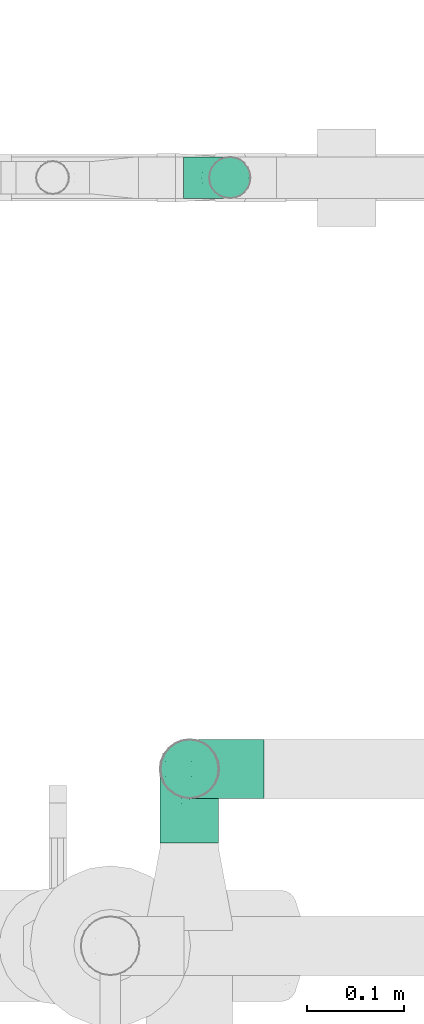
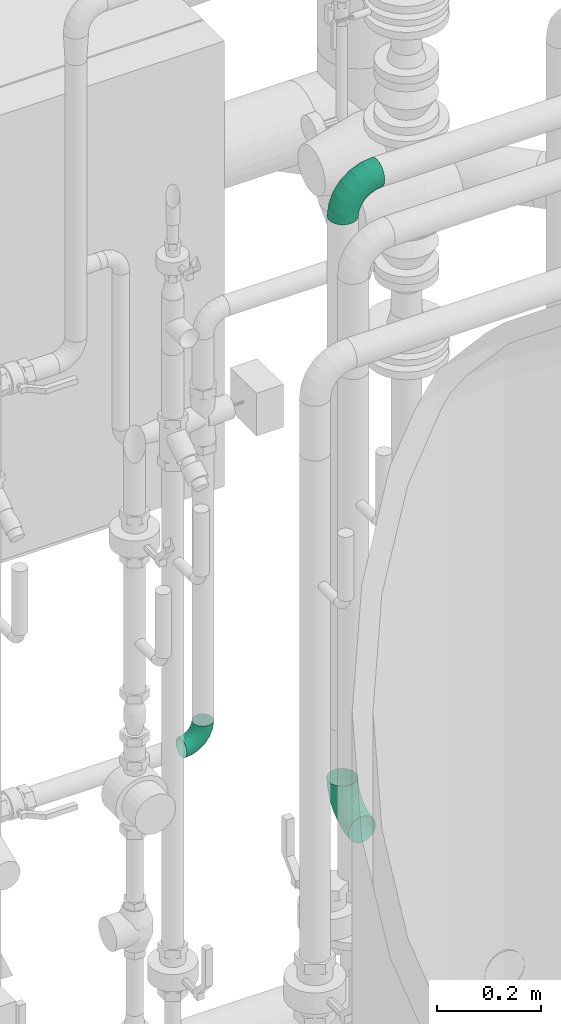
# One storey, part 113 of 374: 3 flow segments.
"""IFC2X3 building model written with IfcOpenShell, lengths in metres."""

import ifcopenshell
import ifcopenshell.guid

model = None  # the IFC model being written
_history = None  # IfcOwnerHistory: only IFC2X3 demands one
_inside = {}  # id of a spatial element -> (the spatial element, [elements in it])
_under = {}  # id of a project, library or spatial element -> (it, [spatial elements below it])
_declared = {}  # id of a project -> (the project, [libraries it declares])
_typed = {}  # id of a type object -> (the type object, [elements of that type])
_made_of = {}  # id of a material, layer set ... -> (it, [elements and type objects made of it])


def new_model(schema):
    """Start an empty IFC model of exactly this schema.

    Asked for "IFC4X3", IfcOpenShell would pick the latest addendum, in which some entities
    have other attributes; the version numbers below select the first issue.
    IFC2X3 requires an IfcOwnerHistory on every rooted entity: one is made here for all.
    """
    global model, _history
    if schema == "IFC4X3":
        model = ifcopenshell.file(schema_version=(4, 3, 0, 0))
    else:
        model = ifcopenshell.file(schema=schema)
    _inside.clear()
    _under.clear()
    _declared.clear()
    _typed.clear()
    _made_of.clear()
    _history = None
    if model.schema == "IFC2X3":
        org = make("IfcOrganization", Name="unknown")
        user = make(
            "IfcPersonAndOrganization",
            ThePerson=make("IfcPerson", FamilyName="unknown"),
            TheOrganization=org,
        )
        app = make(
            "IfcApplication",
            ApplicationDeveloper=org,
            Version="unknown",
            ApplicationFullName="unknown",
            ApplicationIdentifier="unknown",
        )
        _history = make(
            "IfcOwnerHistory",
            OwningUser=user,
            OwningApplication=app,
            ChangeAction="ADDED",
            CreationDate=0,
        )
    return model


def make(cls, **values):
    """One entity of the class cls with the attributes given. An attribute that is None is left unset."""
    return model.create_entity(
        cls, **{name: value for name, value in values.items() if value is not None}
    )


def rooted(cls, **values):
    """An entity with a GlobalId (a new one), such as an element, a storey or a relation."""
    return make(cls, GlobalId=ifcopenshell.guid.new(), OwnerHistory=_history, **values)


def si_unit(unit_type, name, prefix=None):
    """IfcSIUnit, for example si_unit("LENGTHUNIT", "METRE", prefix="MILLI")."""
    return make("IfcSIUnit", UnitType=unit_type, Prefix=prefix, Name=name)


def assignment(units):
    """IfcUnitAssignment: the units of a project."""
    return None if units is None else make("IfcUnitAssignment", Units=units)


def point(xyz):
    """IfcCartesianPoint."""
    return None if xyz is None else make("IfcCartesianPoint", Coordinates=xyz)


def direction(xyz):
    """IfcDirection."""
    return None if xyz is None else make("IfcDirection", DirectionRatios=xyz)


def frame(location, z_axis=None, x_axis=None):
    """IfcAxis2Placement3D, a coordinate frame: its origin and axes. An axis left out is left unset."""
    return make(
        "IfcAxis2Placement3D",
        Location=point(location),
        Axis=direction(z_axis),
        RefDirection=direction(x_axis),
    )


def origin():
    """The frame at (0, 0, 0) with its axes left unset."""
    return frame((0.0, 0.0, 0.0))


def place(relative_to, where):
    """IfcLocalPlacement: puts the frame where relative to a parent placement (None: the world)."""
    return make(
        "IfcLocalPlacement", PlacementRelTo=relative_to, RelativePlacement=where
    )


def context(
    kind, dimensions, precision=None, world=None, true_north=None, identifier=None
):
    """IfcGeometricRepresentationContext, for example the 3D "Model" context."""
    return make(
        "IfcGeometricRepresentationContext",
        ContextIdentifier=identifier,
        ContextType=kind,
        CoordinateSpaceDimension=dimensions,
        Precision=precision,
        WorldCoordinateSystem=world,
        TrueNorth=true_north,
    )


def subcontext(parent, identifier, kind, view, scale=None):
    """IfcGeometricRepresentationSubContext, for example "Body" below "Model"."""
    return make(
        "IfcGeometricRepresentationSubContext",
        ContextIdentifier=identifier,
        ContextType=kind,
        ParentContext=parent,
        TargetScale=scale,
        TargetView=view,
    )


def project(units=None, contexts=None):
    """IfcProject with its units and contexts."""
    return rooted(
        "IfcProject",
        Name="project",
        RepresentationContexts=contexts,
        UnitsInContext=assignment(units),
    )


def spatial(cls, under=None, at=None, **own):
    """A site, building, storey or space (cls), placed at a placement, below another one or the project."""
    s = rooted(cls, ObjectPlacement=at, **own)
    if under is not None:
        _under.setdefault(under.id(), (under, []))[1].append(s)
    return s


def faces_of(points, faces, orient=None, outer=None):
    """IfcFace entities. A face is a list of loops; a loop is a list of indices into points, from 0.

    orient and outer hold one flag for each loop. By default every Orientation is true, the
    first loop of a face is its IfcFaceOuterBound and the others are IfcFaceBound.
    """
    made = []
    for i, loops in enumerate(faces):
        bounds = []
        for j, loop in enumerate(loops):
            is_outer = j == 0 if outer is None else outer[i][j]
            bounds.append(
                make(
                    "IfcFaceOuterBound" if is_outer else "IfcFaceBound",
                    Bound=make("IfcPolyLoop", Polygon=[points[k] for k in loop]),
                    Orientation=True if orient is None else orient[i][j],
                )
            )
        made.append(make("IfcFace", Bounds=bounds))
    return made


def open_shell(faces, orient=None, outer=None):
    """The faces of one IfcOpenShell. surface_model builds it on its shared points."""
    return ("IfcOpenShell", faces, orient, outer)


def surface_model(cls, points, shells):
    """IfcFaceBasedSurfaceModel or IfcShellBasedSurfaceModel (cls): surfaces that need not close."""
    shared = [point(p) for p in points]
    made = [make(c, CfsFaces=faces_of(shared, fs, o, b)) for c, fs, o, b in shells]
    if cls == "IfcFaceBasedSurfaceModel":
        return make(cls, FbsmFaces=made)
    return make(cls, SbsmBoundary=made)


def shape(context_of_items, identifier, shape_type, items):
    """IfcShapeRepresentation: the items that make up one representation, for example the "Body"."""
    return make(
        "IfcShapeRepresentation",
        ContextOfItems=context_of_items,
        RepresentationIdentifier=identifier,
        RepresentationType=shape_type,
        Items=items,
    )


def source(mapping_origin, context_of_items, identifier, shape_type, items):
    """IfcRepresentationMap: a shape defined once, which mapped items show again and again."""
    return make(
        "IfcRepresentationMap",
        MappingOrigin=mapping_origin,
        MappedRepresentation=shape(context_of_items, identifier, shape_type, items),
    )


def transform(
    local_origin,
    x_axis=None,
    y_axis=None,
    z_axis=None,
    scale=None,
    scale2=None,
    scale3=None,
    uniform=True,
):
    """IfcCartesianTransformationOperator3D, or its non-uniform kind. x_axis, y_axis, z_axis: its Axis1, 2, 3."""
    if uniform:
        return make(
            "IfcCartesianTransformationOperator3D",
            Axis1=direction(x_axis),
            Axis2=direction(y_axis),
            LocalOrigin=point(local_origin),
            Scale=scale,
            Axis3=direction(z_axis),
        )
    return make(
        "IfcCartesianTransformationOperator3DnonUniform",
        Axis1=direction(x_axis),
        Axis2=direction(y_axis),
        LocalOrigin=point(local_origin),
        Scale=scale,
        Axis3=direction(z_axis),
        Scale2=scale2,
        Scale3=scale3,
    )


def mapped(mapping_source, mapping_target):
    """IfcMappedItem: shows the shape of a source again, moved by a transform."""
    return make(
        "IfcMappedItem", MappingSource=mapping_source, MappingTarget=mapping_target
    )


def made_of(thing, what):
    """Note that an element or type object is made of a material, layer set ...; save() writes the relation."""
    if what is not None:
        _made_of.setdefault(what.id(), (what, []))[1].append(thing)
    return thing


def element(
    cls,
    number,
    at=None,
    inside=None,
    cuts=None,
    type_object=None,
    material=None,
    context=None,
    identifier="Body",
    shape_type=None,
    held_by="IfcProductDefinitionShape",
    body=None,
    shapes=None,
    **own,
):
    """One element of the class cls, such as IfcWall. Its Tag is "e" and its number.

    at: its placement. inside: the storey or other place that contains it. cuts: it is an
    opening in that element (IfcRelVoidsElement). A single representation is given by context,
    identifier, shape_type and body (its items); several are given by shapes. held_by: the class
    of the entity that holds the representations. save() writes the other relations.
    """
    e = rooted(cls, Tag="e%d" % number, ObjectPlacement=at, **own)
    if body is not None:
        shapes = [shape(context, identifier, shape_type, body)]
    if shapes is not None:
        e.Representation = make(held_by, Representations=shapes)
    if inside is not None:
        _inside.setdefault(inside.id(), (inside, []))[1].append(e)
    if cuts is not None:
        rooted(
            "IfcRelVoidsElement", RelatingBuildingElement=cuts, RelatedOpeningElement=e
        )
    if type_object is not None:
        _typed.setdefault(type_object.id(), (type_object, []))[1].append(e)
    return made_of(e, material)


def aggregate(whole, parts):
    """IfcRelAggregates: a whole, such as a stair, and the parts it consists of."""
    return rooted("IfcRelAggregates", RelatingObject=whole, RelatedObjects=parts)


def save(model, path):
    """Write the relations noted so far, then the file.

    IfcRelAggregates (storeys below a building ...), IfcRelContainedInSpatialStructure (elements
    in a storey), IfcRelDefinesByType, IfcRelAssociatesMaterial and IfcRelDeclares: one each for
    every whole, place, type object, material and project.
    """
    for whole, parts in _under.values():
        aggregate(whole, parts)
    for where, things in _inside.values():
        rooted(
            "IfcRelContainedInSpatialStructure",
            RelatedElements=things,
            RelatingStructure=where,
        )
    for kind, things in _typed.values():
        rooted("IfcRelDefinesByType", RelatedObjects=things, RelatingType=kind)
    for what, things in _made_of.values():
        rooted("IfcRelAssociatesMaterial", RelatedObjects=things, RelatingMaterial=what)
    for by, libraries in _declared.values():
        rooted("IfcRelDeclares", RelatingContext=by, RelatedDefinitions=libraries)
    model.write(path)


model = new_model("IFC2X3")

# Units and contexts
model_context = context("Model", 3, precision=1e-05, world=origin(), true_north=direction((-0.4480736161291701, 0.8939966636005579)))
body_context = subcontext(model_context, "Body", "Model", "MODEL_VIEW")
ifc_project = project(units=[si_unit("LENGTHUNIT", "METRE"), si_unit("AREAUNIT", "SQUARE_METRE"), si_unit("VOLUMEUNIT", "CUBIC_METRE"), si_unit("PLANEANGLEUNIT", "RADIAN"), si_unit("THERMODYNAMICTEMPERATUREUNIT", "KELVIN"), si_unit("MASSUNIT", "GRAM", prefix="KILO"), si_unit("TIMEUNIT", "SECOND")], contexts=[model_context])

# Site, building, storey
site_placement = place(None, origin())
site = spatial("IfcSite", under=ifc_project, at=site_placement, Name="Site 1", CompositionType="ELEMENT")
building_placement = place(site_placement, origin())
building = spatial("IfcBuilding", under=site, at=building_placement, Name="Undefined", CompositionType="ELEMENT")
storey_placement = place(building_placement, origin())
storey = spatial("IfcBuildingStorey", under=building, at=storey_placement, Name="Rez de chauss\x8ee", CompositionType="ELEMENT", Elevation=0.0)

# Flow segments
shared_shape_1 = source(origin(), body_context, "Body", "SurfaceModel", [
    surface_model("IfcFaceBasedSurfaceModel", [(0.01806482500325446, 7.105427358e-15, 0.0), (0.017970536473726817, 0.005533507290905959, 0.0), (9.428852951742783e-05, 0.005533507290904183, 1.776356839e-15), (0.0, 0.0, 0.0), (-0.017172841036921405, 0.00613233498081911, -0.004587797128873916), (-0.01744928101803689, 0.0006051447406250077, -0.004636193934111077), (-0.03265412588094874, 0.007289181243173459, -0.013450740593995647), (-0.0330938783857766, 0.0017741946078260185, -0.013592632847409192), (-0.045294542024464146, 0.008925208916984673, -0.02598483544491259), (-0.045867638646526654, 0.0034274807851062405, -0.02625895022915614), (-0.054232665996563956, 0.010928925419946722, -0.041335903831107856), (-0.05490005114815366, 0.005452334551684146, -0.04177195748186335), (-0.05885937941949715, 0.013163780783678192, -0.05845779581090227), (-0.059575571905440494, 0.007710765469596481, -0.05907446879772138), (0.01769409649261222, 0.010875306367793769, -0.0014203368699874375), (0.00037072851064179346, 0.010875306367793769, -0.0014203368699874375), (-0.016362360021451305, 0.011455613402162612, -0.005866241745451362), (-0.03136483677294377, 0.012576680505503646, -0.014455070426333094), (-0.04361430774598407, 0.014162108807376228, -0.026601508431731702), (-0.05227599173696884, 0.016103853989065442, -0.0414777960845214), (-0.05675960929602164, 0.018269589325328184, -0.05807013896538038), (0.017254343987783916, 0.015661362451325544, -0.0041642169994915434), (0.0008104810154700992, 0.015661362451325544, -0.004164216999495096), (-0.01507307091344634, 0.016212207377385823, -0.008384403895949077), (-0.029313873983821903, 0.01727635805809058, -0.016537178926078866), (-0.04094144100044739, 0.01878129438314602, -0.02806694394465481), (-0.049163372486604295, 0.02062445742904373, -0.042187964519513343), (-0.05341935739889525, 0.02268023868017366, -0.05793791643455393), (0.016681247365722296, 0.01956551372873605, -0.008044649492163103), (0.001383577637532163, 0.01956551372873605, -0.008044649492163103), (-0.01339283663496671, 0.020077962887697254, -0.011970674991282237), (-0.026641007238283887, 0.021067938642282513, -0.01955517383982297), (-0.03745809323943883, 0.02246797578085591, -0.03028127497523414), (-0.04510692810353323, 0.0241826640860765, -0.04341801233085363), (-0.04906625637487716, 0.026095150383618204, -0.05807013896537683), (0.016013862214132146, 0.022321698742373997, -0.012797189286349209), (0.0020509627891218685, 0.022321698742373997, -0.012797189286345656), (-0.011436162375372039, 0.02278943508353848, -0.016380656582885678), (-0.023528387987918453, 0.02369303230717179, -0.023303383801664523), (-0.03340164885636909, 0.024970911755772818, -0.03309359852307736), (-0.040383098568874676, 0.026535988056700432, -0.04508411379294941), (-0.04399696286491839, 0.028281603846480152, -0.05845779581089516), (0.015297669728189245, 0.023742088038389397, -0.018097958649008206), (0.00276715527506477, 0.023742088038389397, -0.018097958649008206), (-0.009336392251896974, 0.024161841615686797, -0.021313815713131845), (-0.02018813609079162, 0.02497274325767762, -0.0275263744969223), (-0.029048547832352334, 0.02611953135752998, -0.03631225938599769), (-0.03531380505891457, 0.027524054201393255, -0.04707272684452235), (-0.0385569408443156, 0.02909059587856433, -0.05907446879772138), (0.014581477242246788, 0.023729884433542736, -0.02358571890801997), (0.0034833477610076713, 0.023729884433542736, -0.02358571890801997), (-0.007236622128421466, 0.024101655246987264, -0.026433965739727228), (-0.016847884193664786, 0.02481986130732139, -0.03193635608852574), (-0.02469544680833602, 0.02583555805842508, -0.03971791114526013), (-0.0302445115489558, 0.027079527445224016, -0.04924833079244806), (-0.03311691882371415, 0.02846699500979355, -0.059878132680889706), (0.013914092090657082, 0.02228591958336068, -0.02888648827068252), (0.004150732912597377, 0.022285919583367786, -0.028886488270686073), (-0.005279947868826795, 0.022612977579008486, -0.031392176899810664), (-0.013735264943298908, 0.023244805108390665, -0.03623279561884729), (-0.020639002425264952, 0.02413834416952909, -0.04307846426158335), (-0.025520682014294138, 0.025232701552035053, -0.051462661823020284), (-0.028047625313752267, 0.026453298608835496, -0.060814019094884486), (0.013340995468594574, 0.01950859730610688, -0.03363902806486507), (0.0047238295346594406, 0.01950859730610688, -0.033639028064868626), (-0.0035997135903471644, 0.019797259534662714, -0.035850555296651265), (-0.011062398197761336, 0.0203549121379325, -0.04012289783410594), (-0.017155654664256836, 0.021143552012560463, -0.04616490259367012), (-0.02146423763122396, 0.022109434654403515, -0.05356481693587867), (-0.02369452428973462, 0.023186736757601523, -0.06181834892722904), (0.012901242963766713, 0.015587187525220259, -0.037519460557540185), (0.005163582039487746, 0.015587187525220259, -0.03751946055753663), (-0.0023104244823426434, 0.015846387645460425, -0.03950526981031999), (-0.009011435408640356, 0.016347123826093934, -0.043341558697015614), (-0.01448278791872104, 0.017055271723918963, -0.048766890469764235), (-0.018351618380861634, 0.017922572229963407, -0.05541153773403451), (-0.02035427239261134, 0.018889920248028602, -0.06282267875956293), (0.012624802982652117, 0.010788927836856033, -0.040263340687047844), (0.005440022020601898, 0.010788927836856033, -0.0402633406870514), (-0.0014999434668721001, 0.011029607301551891, -0.04210725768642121), (-0.007722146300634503, 0.01149456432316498, -0.045669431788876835), (-0.012802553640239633, 0.012152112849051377, -0.05070710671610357), (-0.0163949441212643, 0.012957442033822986, -0.056876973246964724), (-0.018254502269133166, 0.013855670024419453, -0.06375856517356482), (0.012530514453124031, 0.005440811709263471, -0.041683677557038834), (0.005534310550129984, 0.0054408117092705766, -0.041683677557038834), (-0.0012235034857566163, 0.005675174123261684, -0.04347919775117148), (-0.007282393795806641, 0.006127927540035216, -0.046947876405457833), (-0.012229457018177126, 0.0067682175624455, -0.05185332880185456), (-0.015727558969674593, 0.007552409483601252, -0.05786125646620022), (-0.01753830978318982, 0.008427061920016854, -0.0645622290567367), (0.012624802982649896, -9.26955816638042e-05, -0.04168367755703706), (0.005440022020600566, -9.269558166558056e-05, -0.04168367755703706), (-0.0014999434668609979, 0.00014798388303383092, -0.0435275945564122), (-0.007722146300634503, 0.0006129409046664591, -0.047089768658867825), (-0.012802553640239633, 0.001270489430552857, -0.05212744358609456), (-0.0163949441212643, 0.002075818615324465, -0.058297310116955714), (-0.018254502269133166, 0.0029740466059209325, -0.06517890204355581), (0.012901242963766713, -0.005434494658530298, -0.0402633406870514), (0.005163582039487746, -0.005434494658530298, -0.040263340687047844), (-0.0023104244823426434, -0.005175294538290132, -0.0422491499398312), (-0.009011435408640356, -0.004674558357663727, -0.046085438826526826), (-0.01448278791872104, -0.0039664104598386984, -0.051510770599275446), (-0.018351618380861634, -0.0030991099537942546, -0.05815541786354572), (-0.02035427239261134, -0.0021317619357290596, -0.06556655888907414), (0.013340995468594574, -0.010220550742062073, -0.03751946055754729), (0.0047238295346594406, -0.010220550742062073, -0.03751946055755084), (-0.0035997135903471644, -0.009931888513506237, -0.03973098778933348), (-0.011062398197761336, -0.009374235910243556, -0.04400333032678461), (-0.017155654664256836, -0.00858559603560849, -0.05004533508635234), (-0.02146423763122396, -0.007619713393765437, -0.057445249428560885), (-0.02369452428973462, -0.006542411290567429, -0.06569878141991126), (0.013914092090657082, -0.01412470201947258, -0.03363902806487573), (0.004150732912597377, -0.014124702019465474, -0.033639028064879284), (-0.005279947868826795, -0.013797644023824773, -0.036144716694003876), (-0.013735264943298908, -0.013165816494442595, -0.0409853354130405), (-0.020639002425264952, -0.012272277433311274, -0.04783100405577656), (-0.025520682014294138, -0.011177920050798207, -0.05621520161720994), (-0.028047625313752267, -0.009957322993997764, -0.0655665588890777), (0.014581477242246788, -0.01688088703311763, -0.028886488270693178), (0.0034833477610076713, -0.01688088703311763, -0.028886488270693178), (-0.007236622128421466, -0.016509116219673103, -0.031734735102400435), (-0.016847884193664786, -0.015790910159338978, -0.03723712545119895), (-0.02469544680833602, -0.014775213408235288, -0.04501868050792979), (-0.0302445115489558, -0.01353124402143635, -0.054549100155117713), (-0.03311691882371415, -0.012143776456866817, -0.06517890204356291), (0.015297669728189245, -0.01830127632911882, -0.02358571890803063), (0.00276715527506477, -0.01830127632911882, -0.02358571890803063), (-0.009336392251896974, -0.01788152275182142, -0.026801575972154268), (-0.02018813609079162, -0.017070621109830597, -0.033014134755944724), (-0.029048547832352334, -0.01592383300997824, -0.04180001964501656), (-0.03531380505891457, -0.014519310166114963, -0.05256048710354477), (-0.0385569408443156, -0.012952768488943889, -0.06456222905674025), (0.016013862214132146, -0.01828907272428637, -0.018097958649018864), (0.0020509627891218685, -0.01828907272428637, -0.018097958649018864), (-0.011436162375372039, -0.01782133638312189, -0.021681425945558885), (-0.023528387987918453, -0.016917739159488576, -0.02860415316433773), (-0.03340164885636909, -0.01563985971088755, -0.038394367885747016), (-0.040383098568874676, -0.014074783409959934, -0.05038488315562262), (-0.04399696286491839, -0.012329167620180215, -0.06375856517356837), (0.016681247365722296, -0.01684510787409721, -0.012797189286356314), (0.001383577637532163, -0.01684510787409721, -0.012797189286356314), (-0.01339283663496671, -0.016332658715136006, -0.01672321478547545), (-0.026641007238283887, -0.015342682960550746, -0.02430771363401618), (-0.03745809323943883, -0.01394264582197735, -0.03503381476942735), (-0.04510692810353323, -0.01222795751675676, -0.04817055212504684), (-0.04906625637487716, -0.010315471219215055, -0.06282267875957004), (0.017254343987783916, -0.014067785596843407, -0.008044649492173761), (0.0008104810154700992, -0.014067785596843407, -0.008044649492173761), (-0.01507307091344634, -0.013516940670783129, -0.012264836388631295), (-0.029313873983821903, -0.012452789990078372, -0.020417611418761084), (-0.04094144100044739, -0.010947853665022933, -0.03194737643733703), (-0.049163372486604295, -0.009104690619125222, -0.04606839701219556), (-0.05341935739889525, -0.007048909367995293, -0.06181834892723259), (0.01769409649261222, -0.010146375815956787, -0.004164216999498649), (0.00037072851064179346, -0.010146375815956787, -0.004164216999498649), (-0.016362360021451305, -0.009566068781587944, -0.008610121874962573), (-0.03136483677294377, -0.008445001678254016, -0.017198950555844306), (-0.04361430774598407, -0.006859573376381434, -0.029345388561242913), (-0.05227599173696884, -0.00491782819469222, -0.04422167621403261), (-0.05675960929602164, -0.002752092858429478, -0.060814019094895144), (0.017970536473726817, -0.0053481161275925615, -0.0014203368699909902), (9.428852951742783e-05, -0.0053481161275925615, -0.0014203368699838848), (-0.017172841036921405, -0.004749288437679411, -0.006008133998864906), (-0.03265412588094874, -0.0035924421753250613, -0.014871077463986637), (-0.045294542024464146, -0.001956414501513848, -0.02740517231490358), (-0.05423266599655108, 4.730200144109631e-05, -0.042756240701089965), (-0.05885937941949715, 0.002282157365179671, -0.05987813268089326)], [open_shell([[[0, 1, 2, 3]], [[3, 2, 4, 5]], [[5, 4, 6, 7]], [[7, 6, 8, 9]], [[9, 8, 10, 11]], [[11, 10, 12, 13]], [[1, 14, 15, 2]], [[2, 15, 16, 4]], [[4, 16, 17, 6]], [[6, 17, 18, 8]], [[8, 18, 19, 10]], [[10, 19, 20, 12]], [[14, 21, 22, 15]], [[15, 22, 23, 16]], [[16, 23, 24, 17]], [[17, 24, 25, 18]], [[18, 25, 26, 19]], [[19, 26, 27, 20]], [[21, 28, 29, 22]], [[22, 29, 30, 23]], [[23, 30, 31, 24]], [[24, 31, 32, 25]], [[25, 32, 33, 26]], [[26, 33, 34, 27]], [[28, 35, 36, 29]], [[29, 36, 37, 30]], [[30, 37, 38, 31]], [[31, 38, 39, 32]], [[32, 39, 40, 33]], [[33, 40, 41, 34]], [[35, 42, 43, 36]], [[36, 43, 44, 37]], [[37, 44, 45, 38]], [[38, 45, 46, 39]], [[39, 46, 47, 40]], [[40, 47, 48, 41]], [[42, 49, 50, 43]], [[43, 50, 51, 44]], [[44, 51, 52, 45]], [[45, 52, 53, 46]], [[46, 53, 54, 47]], [[47, 54, 55, 48]], [[49, 56, 57, 50]], [[50, 57, 58, 51]], [[51, 58, 59, 52]], [[52, 59, 60, 53]], [[53, 60, 61, 54]], [[54, 61, 62, 55]], [[56, 63, 64, 57]], [[57, 64, 65, 58]], [[58, 65, 66, 59]], [[59, 66, 67, 60]], [[60, 67, 68, 61]], [[61, 68, 69, 62]], [[63, 70, 71, 64]], [[64, 71, 72, 65]], [[65, 72, 73, 66]], [[66, 73, 74, 67]], [[67, 74, 75, 68]], [[68, 75, 76, 69]], [[70, 77, 78, 71]], [[71, 78, 79, 72]], [[72, 79, 80, 73]], [[73, 80, 81, 74]], [[74, 81, 82, 75]], [[75, 82, 83, 76]], [[77, 84, 85, 78]], [[78, 85, 86, 79]], [[79, 86, 87, 80]], [[80, 87, 88, 81]], [[81, 88, 89, 82]], [[82, 89, 90, 83]], [[84, 91, 92, 85]], [[85, 92, 93, 86]], [[86, 93, 94, 87]], [[87, 94, 95, 88]], [[88, 95, 96, 89]], [[89, 96, 97, 90]], [[91, 98, 99, 92]], [[92, 99, 100, 93]], [[93, 100, 101, 94]], [[94, 101, 102, 95]], [[95, 102, 103, 96]], [[96, 103, 104, 97]], [[98, 105, 106, 99]], [[99, 106, 107, 100]], [[100, 107, 108, 101]], [[101, 108, 109, 102]], [[102, 109, 110, 103]], [[103, 110, 111, 104]], [[105, 112, 113, 106]], [[106, 113, 114, 107]], [[107, 114, 115, 108]], [[108, 115, 116, 109]], [[109, 116, 117, 110]], [[110, 117, 118, 111]], [[112, 119, 120, 113]], [[113, 120, 121, 114]], [[114, 121, 122, 115]], [[115, 122, 123, 116]], [[116, 123, 124, 117]], [[117, 124, 125, 118]], [[119, 126, 127, 120]], [[120, 127, 128, 121]], [[121, 128, 129, 122]], [[122, 129, 130, 123]], [[123, 130, 131, 124]], [[124, 131, 132, 125]], [[126, 133, 134, 127]], [[127, 134, 135, 128]], [[128, 135, 136, 129]], [[129, 136, 137, 130]], [[130, 137, 138, 131]], [[131, 138, 139, 132]], [[133, 140, 141, 134]], [[134, 141, 142, 135]], [[135, 142, 143, 136]], [[136, 143, 144, 137]], [[137, 144, 145, 138]], [[138, 145, 146, 139]], [[140, 147, 148, 141]], [[141, 148, 149, 142]], [[142, 149, 150, 143]], [[143, 150, 151, 144]], [[144, 151, 152, 145]], [[145, 152, 153, 146]], [[147, 154, 155, 148]], [[148, 155, 156, 149]], [[149, 156, 157, 150]], [[150, 157, 158, 151]], [[151, 158, 159, 152]], [[152, 159, 160, 153]], [[154, 161, 162, 155]], [[155, 162, 163, 156]], [[156, 163, 164, 157]], [[157, 164, 165, 158]], [[158, 165, 166, 159]], [[159, 166, 167, 160]], [[161, 0, 3, 162]], [[162, 3, 5, 163]], [[163, 5, 7, 164]], [[164, 7, 9, 165]], [[165, 9, 11, 166]], [[166, 11, 13, 167]]])]),
])
flow_segment_1_placement = place(storey_placement, origin())
element("IfcFlowSegment", 1, at=flow_segment_1_placement, inside=storey, Name="Tube coudé", ObjectType="Tube coudé", context=body_context, shape_type="MappedRepresentation", body=[
    mapped(shared_shape_1, transform((54.35048173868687, 11.708084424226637, 0.35215793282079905), x_axis=(-0.9914448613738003, 0.0, -0.13052619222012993), y_axis=(-0.016893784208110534, 0.9915887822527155, 0.12832103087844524), z_axis=(0.12942830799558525, 0.12942830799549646, -0.9831056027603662))),
])
shared_shape_2 = source(origin(), body_context, "Body", "SurfaceModel", [
    surface_model("IfcFaceBasedSurfaceModel", [(0.027710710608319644, 4.4408921e-16, 0.0), (0.02757661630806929, 0.00786958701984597, 7.105427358e-15), (0.00013409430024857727, 0.00786958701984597, 0.0), (0.0, 0.0, 0.0), (-0.02637334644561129, 0.008788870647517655, -0.0070429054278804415), (-0.026766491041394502, 0.0009282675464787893, -0.007111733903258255), (-0.050139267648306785, 0.010564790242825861, -0.02064875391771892), (-0.050764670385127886, 0.0027215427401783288, -0.02085054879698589), (-0.06954406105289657, 0.013076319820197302, -0.03989032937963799), (-0.07035910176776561, 0.00525761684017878, -0.04028016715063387), (-0.0832653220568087, 0.01615230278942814, -0.06345635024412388), (-0.08421445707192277, 0.00836366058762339, -0.06407649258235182), (-0.09036796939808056, 0.019583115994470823, -0.08974083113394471), (-0.0913865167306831, 0.011828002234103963, -0.09061784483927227), (0.027183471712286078, 0.015466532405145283, -0.0020199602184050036), (0.0005272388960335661, 0.015466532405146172, -0.0020199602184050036), (-0.025220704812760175, 0.016359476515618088, -0.008861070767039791), (-0.048305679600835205, 0.018084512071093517, -0.02207708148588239), (-0.06715448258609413, 0.020524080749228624, -0.04076734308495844), (-0.0804825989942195, 0.023511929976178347, -0.06365814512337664), (-0.08738173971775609, 0.026844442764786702, -0.08918951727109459), (0.026558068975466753, 0.022273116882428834, -0.005922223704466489), (0.001152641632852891, 0.02227311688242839, -0.005922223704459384), (-0.02338711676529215, 0.023124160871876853, -0.012442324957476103), (-0.04538886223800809, 0.02476825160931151, -0.02503819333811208), (-0.06335321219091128, 0.027093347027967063, -0.042851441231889), (-0.07605592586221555, 0.029940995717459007, -0.06466812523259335), (-0.08263133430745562, 0.033117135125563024, -0.08900147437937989), (0.025743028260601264, 0.0278254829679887, -0.011440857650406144), (0.0019676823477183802, 0.027825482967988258, -0.011440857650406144), (-0.020997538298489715, 0.028621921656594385, -0.017542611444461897), (-0.04158759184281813, 0.03016052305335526, -0.029330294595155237), (-0.058399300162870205, 0.0323364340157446, -0.04600059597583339), (-0.07028697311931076, 0.03500136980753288, -0.06641746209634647), (-0.07644048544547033, 0.0379737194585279, -0.08918951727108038), (0.02479389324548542, 0.03174524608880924, -0.01819977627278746), (0.0029168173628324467, 0.03174524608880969, -0.01819977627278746), (-0.018214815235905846, 0.0324780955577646, -0.023814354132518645), (-0.03716091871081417, 0.033893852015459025, -0.034660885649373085), (-0.052630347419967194, 0.03589603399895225, -0.05000019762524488), (-0.06356888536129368, 0.03834819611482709, -0.06878694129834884), (-0.06923108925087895, 0.041083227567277, -0.0897408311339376), (0.023775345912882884, 0.03376528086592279, -0.02573837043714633), (0.003935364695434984, 0.03376528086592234, -0.02573837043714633), (-0.01522858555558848, 0.03442989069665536, -0.03083014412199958), (-0.0324105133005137, 0.03571381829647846, -0.040666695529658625), (-0.046439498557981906, 0.0375295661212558, -0.05457767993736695), (-0.05635948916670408, 0.039753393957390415, -0.07161508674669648), (-0.061494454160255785, 0.04223375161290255, -0.09061784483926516), (0.022756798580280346, 0.03374792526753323, -0.033542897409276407), (0.0049539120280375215, 0.033747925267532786, -0.033542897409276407), (-0.01224235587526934, 0.03434429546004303, -0.03811186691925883), (-0.027660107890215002, 0.035496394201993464, -0.04693843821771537), (-0.040248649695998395, 0.0371257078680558, -0.05942109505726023), (-0.04915009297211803, 0.039121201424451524, -0.07470916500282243), (-0.05375781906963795, 0.041346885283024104, -0.09176079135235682), (0.02180766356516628, 0.03169436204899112, -0.04108149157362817), (0.005903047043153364, 0.031694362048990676, -0.04108149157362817), (-0.00945963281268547, 0.03222714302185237, -0.045163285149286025), (-0.02323343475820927, 0.03325639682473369, -0.05304870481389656), (-0.034479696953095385, 0.034711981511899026, -0.06420037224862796), (-0.04243200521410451, 0.036494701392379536, -0.07785831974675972), (-0.04654842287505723, 0.03848306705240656, -0.09309178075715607), (0.020992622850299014, 0.02774453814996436, -0.0478404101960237), (0.006718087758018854, 0.027744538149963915, -0.0478404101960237), (-0.007070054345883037, 0.02822271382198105, -0.05150385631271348), (-0.019432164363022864, 0.0291464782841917, -0.0585810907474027), (-0.029525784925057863, 0.030452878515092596, -0.06858981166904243), (-0.03666305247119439, 0.032052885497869, -0.08084794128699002), (-0.04035757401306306, 0.03383746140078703, -0.09452010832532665), (0.020367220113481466, 0.022167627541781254, -0.05335904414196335), (0.0073434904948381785, 0.022167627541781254, -0.05335904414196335), (-0.00523646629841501, 0.02260390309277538, -0.05670148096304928), (-0.016515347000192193, 0.023446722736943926, -0.06315857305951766), (-0.025724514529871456, 0.02463864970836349, -0.07229028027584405), (-0.03223637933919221, 0.02609845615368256, -0.0834742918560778), (-0.03560716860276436, 0.027726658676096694, -0.09594843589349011), (0.019974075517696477, 0.01534368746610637, -0.05726130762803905), (0.007736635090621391, 0.01534368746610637, -0.05726130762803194), (-0.004083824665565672, 0.01575362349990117, -0.06040194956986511), (-0.014681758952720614, 0.01654555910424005, -0.06646920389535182), (-0.02333493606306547, 0.01766552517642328, -0.07504959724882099), (-0.029453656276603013, 0.01903719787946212, -0.08555839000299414), (-0.032620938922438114, 0.02056709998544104, -0.09727942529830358), (0.019839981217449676, 0.00773775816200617, -0.05928126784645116), (0.007870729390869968, 0.007737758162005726, -0.05928126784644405), (-0.003690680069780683, 0.008138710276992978, -0.062353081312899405), (-0.014056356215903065, 0.008913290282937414, -0.06828736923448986), (-0.022519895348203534, 0.01000871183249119, -0.07667971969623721), (-0.0285045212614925, 0.011350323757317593, -0.08695820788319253), (-0.03160239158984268, 0.012846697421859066, -0.09842237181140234), (0.019974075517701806, -0.0001318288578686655, -0.05928126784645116), (0.007736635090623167, -0.0001318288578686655, -0.059281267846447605), (-0.004083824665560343, 0.0002781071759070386, -0.062421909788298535), (-0.014681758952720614, 0.001070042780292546, -0.06848916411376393), (-0.02333493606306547, 0.0021900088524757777, -0.0770695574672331), (-0.029453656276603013, 0.0035616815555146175, -0.08757835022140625), (-0.032620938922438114, 0.005091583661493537, -0.09929938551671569), (0.020367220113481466, -0.007728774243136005, -0.057261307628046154), (0.0073434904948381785, -0.007728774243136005, -0.057261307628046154), (-0.00523646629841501, -0.00729249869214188, -0.06060374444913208), (-0.016515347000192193, -0.0064496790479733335, -0.06706083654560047), (-0.025724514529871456, -0.005257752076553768, -0.07619254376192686), (-0.03223637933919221, -0.0037979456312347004, -0.0873765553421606), (-0.03560716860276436, -0.0021697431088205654, -0.09985069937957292), (0.020992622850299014, -0.01453535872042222, -0.053359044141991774), (0.006718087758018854, -0.014535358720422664, -0.053359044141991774), (-0.007070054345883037, -0.01405718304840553, -0.05702249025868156), (-0.019432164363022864, -0.013133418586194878, -0.06409972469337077), (-0.029525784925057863, -0.011827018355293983, -0.07410844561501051), (-0.03666305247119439, -0.01022701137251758, -0.0863665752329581), (-0.04035757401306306, -0.008442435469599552, -0.10003874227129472), (0.02180766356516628, -0.020087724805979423, -0.04784041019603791), (0.005903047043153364, -0.020087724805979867, -0.04784041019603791), (-0.00945963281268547, -0.019554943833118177, -0.05192220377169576), (-0.02323343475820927, -0.018525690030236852, -0.0598076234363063), (-0.034479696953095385, -0.017070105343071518, -0.0709592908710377), (-0.04243200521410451, -0.015287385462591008, -0.08461723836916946), (-0.04654842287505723, -0.013299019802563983, -0.09985069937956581), (0.022756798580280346, -0.024007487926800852, -0.0410814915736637), (0.0049539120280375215, -0.024007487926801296, -0.0410814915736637), (-0.01224235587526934, -0.023411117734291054, -0.04565046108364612), (-0.027660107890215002, -0.022259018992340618, -0.054477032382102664), (-0.040248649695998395, -0.02062970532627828, -0.06695968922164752), (-0.04915009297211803, -0.018634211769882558, -0.08224775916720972), (-0.05375781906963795, -0.016408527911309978, -0.09929938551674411), (0.023775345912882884, -0.026027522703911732, -0.033542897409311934), (0.003935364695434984, -0.026027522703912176, -0.033542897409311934), (-0.01522858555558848, -0.025362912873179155, -0.038634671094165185), (-0.0324105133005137, -0.024078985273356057, -0.04847122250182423), (-0.046439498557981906, -0.02226323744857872, -0.062382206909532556), (-0.05635948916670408, -0.020039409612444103, -0.07941961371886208), (-0.061494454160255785, -0.01755905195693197, -0.09842237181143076), (0.02479389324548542, -0.02601016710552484, -0.02573837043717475), (0.0029168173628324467, -0.026010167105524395, -0.02573837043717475), (-0.018214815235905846, -0.025277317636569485, -0.031352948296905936), (-0.03716091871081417, -0.023861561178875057, -0.04219947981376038), (-0.052630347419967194, -0.021859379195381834, -0.05753879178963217), (-0.06356888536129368, -0.01940721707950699, -0.07632553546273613), (-0.06923108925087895, -0.01667218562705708, -0.0972794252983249), (0.025743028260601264, -0.023956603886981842, -0.018199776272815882), (0.0019676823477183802, -0.023956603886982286, -0.018199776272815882), (-0.020997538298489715, -0.02316016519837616, -0.024301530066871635), (-0.04158759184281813, -0.021621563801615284, -0.036089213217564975), (-0.058399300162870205, -0.019445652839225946, -0.05275951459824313), (-0.07028697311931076, -0.016780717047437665, -0.0731763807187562), (-0.07644048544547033, -0.013808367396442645, -0.09594843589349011), (0.026558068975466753, -0.020006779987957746, -0.011440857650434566), (0.001152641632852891, -0.02000677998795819, -0.01144085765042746), (-0.02338711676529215, -0.019155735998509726, -0.01796095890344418), (-0.04538886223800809, -0.01751164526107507, -0.030556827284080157), (-0.06335321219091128, -0.015186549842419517, -0.048370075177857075), (-0.07605592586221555, -0.012338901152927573, -0.07018675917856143), (-0.08263133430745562, -0.009162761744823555, -0.09452010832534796), (0.027183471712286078, -0.014429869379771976, -0.005922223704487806), (0.0005272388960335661, -0.014429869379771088, -0.005922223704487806), (-0.025220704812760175, -0.013536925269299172, -0.012763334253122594), (-0.048305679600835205, -0.011811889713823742, -0.02597934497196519), (-0.06715448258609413, -0.009372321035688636, -0.04466960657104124), (-0.0804825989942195, -0.006384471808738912, -0.06756040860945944), (-0.08738173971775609, -0.003051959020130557, -0.09309178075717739), (0.02757661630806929, -0.007605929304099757, -0.0020199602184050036), (0.00013409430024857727, -0.007605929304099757, -0.002019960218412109), (-0.02637334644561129, -0.006686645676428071, -0.00906286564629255), (-0.050139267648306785, -0.004910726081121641, -0.02266871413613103), (-0.06954406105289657, -0.0023991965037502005, -0.0419102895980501), (-0.0832653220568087, 0.0006767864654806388, -0.06547631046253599), (-0.09036796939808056, 0.004107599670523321, -0.09176079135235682)], [open_shell([[[0, 1, 2, 3]], [[3, 2, 4, 5]], [[5, 4, 6, 7]], [[7, 6, 8, 9]], [[9, 8, 10, 11]], [[11, 10, 12, 13]], [[1, 14, 15, 2]], [[2, 15, 16, 4]], [[4, 16, 17, 6]], [[6, 17, 18, 8]], [[8, 18, 19, 10]], [[10, 19, 20, 12]], [[14, 21, 22, 15]], [[15, 22, 23, 16]], [[16, 23, 24, 17]], [[17, 24, 25, 18]], [[18, 25, 26, 19]], [[19, 26, 27, 20]], [[21, 28, 29, 22]], [[22, 29, 30, 23]], [[23, 30, 31, 24]], [[24, 31, 32, 25]], [[25, 32, 33, 26]], [[26, 33, 34, 27]], [[28, 35, 36, 29]], [[29, 36, 37, 30]], [[30, 37, 38, 31]], [[31, 38, 39, 32]], [[32, 39, 40, 33]], [[33, 40, 41, 34]], [[35, 42, 43, 36]], [[36, 43, 44, 37]], [[37, 44, 45, 38]], [[38, 45, 46, 39]], [[39, 46, 47, 40]], [[40, 47, 48, 41]], [[42, 49, 50, 43]], [[43, 50, 51, 44]], [[44, 51, 52, 45]], [[45, 52, 53, 46]], [[46, 53, 54, 47]], [[47, 54, 55, 48]], [[49, 56, 57, 50]], [[50, 57, 58, 51]], [[51, 58, 59, 52]], [[52, 59, 60, 53]], [[53, 60, 61, 54]], [[54, 61, 62, 55]], [[56, 63, 64, 57]], [[57, 64, 65, 58]], [[58, 65, 66, 59]], [[59, 66, 67, 60]], [[60, 67, 68, 61]], [[61, 68, 69, 62]], [[63, 70, 71, 64]], [[64, 71, 72, 65]], [[65, 72, 73, 66]], [[66, 73, 74, 67]], [[67, 74, 75, 68]], [[68, 75, 76, 69]], [[70, 77, 78, 71]], [[71, 78, 79, 72]], [[72, 79, 80, 73]], [[73, 80, 81, 74]], [[74, 81, 82, 75]], [[75, 82, 83, 76]], [[77, 84, 85, 78]], [[78, 85, 86, 79]], [[79, 86, 87, 80]], [[80, 87, 88, 81]], [[81, 88, 89, 82]], [[82, 89, 90, 83]], [[84, 91, 92, 85]], [[85, 92, 93, 86]], [[86, 93, 94, 87]], [[87, 94, 95, 88]], [[88, 95, 96, 89]], [[89, 96, 97, 90]], [[91, 98, 99, 92]], [[92, 99, 100, 93]], [[93, 100, 101, 94]], [[94, 101, 102, 95]], [[95, 102, 103, 96]], [[96, 103, 104, 97]], [[98, 105, 106, 99]], [[99, 106, 107, 100]], [[100, 107, 108, 101]], [[101, 108, 109, 102]], [[102, 109, 110, 103]], [[103, 110, 111, 104]], [[105, 112, 113, 106]], [[106, 113, 114, 107]], [[107, 114, 115, 108]], [[108, 115, 116, 109]], [[109, 116, 117, 110]], [[110, 117, 118, 111]], [[112, 119, 120, 113]], [[113, 120, 121, 114]], [[114, 121, 122, 115]], [[115, 122, 123, 116]], [[116, 123, 124, 117]], [[117, 124, 125, 118]], [[119, 126, 127, 120]], [[120, 127, 128, 121]], [[121, 128, 129, 122]], [[122, 129, 130, 123]], [[123, 130, 131, 124]], [[124, 131, 132, 125]], [[126, 133, 134, 127]], [[127, 134, 135, 128]], [[128, 135, 136, 129]], [[129, 136, 137, 130]], [[130, 137, 138, 131]], [[131, 138, 139, 132]], [[133, 140, 141, 134]], [[134, 141, 142, 135]], [[135, 142, 143, 136]], [[136, 143, 144, 137]], [[137, 144, 145, 138]], [[138, 145, 146, 139]], [[140, 147, 148, 141]], [[141, 148, 149, 142]], [[142, 149, 150, 143]], [[143, 150, 151, 144]], [[144, 151, 152, 145]], [[145, 152, 153, 146]], [[147, 154, 155, 148]], [[148, 155, 156, 149]], [[149, 156, 157, 150]], [[150, 157, 158, 151]], [[151, 158, 159, 152]], [[152, 159, 160, 153]], [[154, 161, 162, 155]], [[155, 162, 163, 156]], [[156, 163, 164, 157]], [[157, 164, 165, 158]], [[158, 165, 166, 159]], [[159, 166, 167, 160]], [[161, 0, 3, 162]], [[162, 3, 5, 163]], [[163, 5, 7, 164]], [[164, 7, 9, 165]], [[165, 9, 11, 166]], [[166, 11, 13, 167]]])]),
])
flow_segment_2_placement = place(storey_placement, origin())
element("IfcFlowSegment", 2, at=flow_segment_2_placement, inside=storey, Name="Tube coudé", ObjectType="Tube coudé", context=body_context, shape_type="MappedRepresentation", body=[
    mapped(shared_shape_2, transform((54.33876052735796, 11.126595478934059, 0.6406167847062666), x_axis=(0.0005928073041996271, 0.1305261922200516, 0.9914446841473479), y_axis=(0.9915987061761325, -0.12832103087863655, 0.016300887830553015), z_axis=(0.1293508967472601, 0.9831056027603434, -0.1295056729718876))),
])
flow_segment_3_placement = place(storey_placement, origin())
element("IfcFlowSegment", 3, at=flow_segment_3_placement, inside=storey, Name="Tube coudé", ObjectType="Tube coudé", context=body_context, shape_type="MappedRepresentation", body=[
    mapped(shared_shape_2, transform((54.38815147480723, 11.100062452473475, 2.0865902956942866), x_axis=(0.9915227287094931, 0.0, 0.1299333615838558), y_axis=(0.016817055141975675, 0.9915887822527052, -0.12833110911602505), z_axis=(-0.128840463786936, 0.12942830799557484, 0.9831828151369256))),
])

save(model, "model.ifc")
